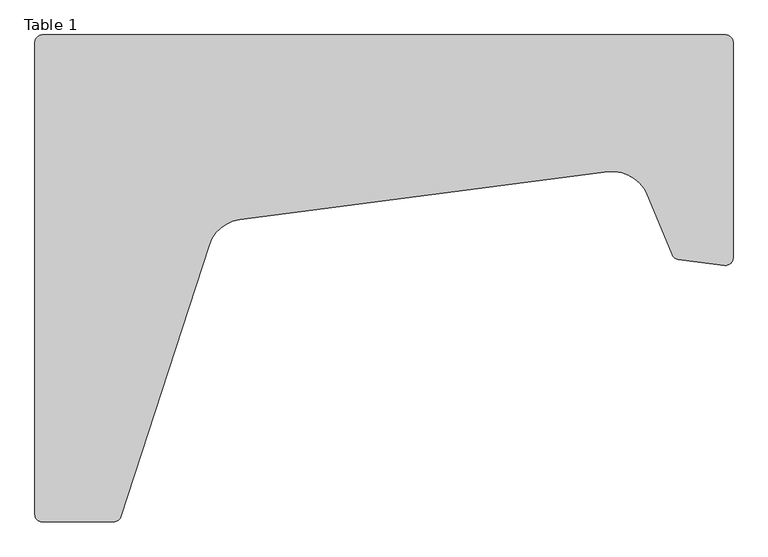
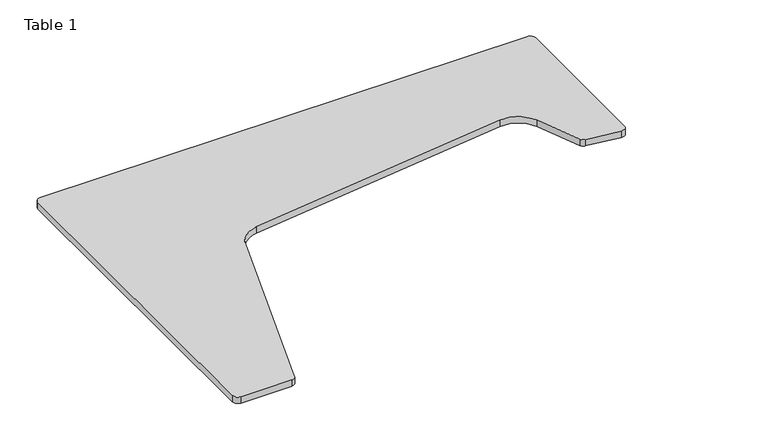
"""IFC4 building model written with IfcOpenShell, lengths in millimetres: furniture geometry, Orangebox_EM_SpaceDivision_Pod_Air3_Furniture_Table_Minipod : Table 1."""

from ifc_helpers import new_model, si_unit, point, frame, frame_2d, origin, place, context, project, spatial, polyline, circle_curve, trimmed, segment, composite_curve, outline, extrude, source, transform, mapped, element, save


def table_1_725a874a(model_context):
    return source(origin(), model_context, "Body", "SweptSolid", [
        extrude(outline(composite_curve([segment(polyline([(20.0, -21.0), (1846.0, -21.0)]), True, "CONTINUOUS"), segment(trimmed(circle_curve(frame_2d((1846.0, -41.0)), 20.0), [point((1846.0, -21.0))], [point((1866.0, -41.0))], False, "CARTESIAN"), True, "CONTINUOUS"), segment(polyline([(1866.0, -41.0), (1866.0, -617.7628162)]), True, "CONTINUOUS"), segment(trimmed(circle_curve(frame_2d((1846.0, -617.7628162)), 20.0), [point((1866.0, -617.7628162))], [point((1843.3894762, -637.5917134))], False, "CARTESIAN"), True, "CONTINUOUS"), segment(polyline([(1843.3894762, -637.5917134), (1719.4916384, -621.2802536)]), True, "CONTINUOUS"), segment(trimmed(circle_curve(frame_2d((1722.1021623, -601.4513564)), 20.0), [point((1719.4916384, -621.2802536))], [point((1703.6245716, -609.105025))], False, "CARTESIAN"), True, "CONTINUOUS"), segment(polyline([(1703.6245716, -609.105025), (1636.9481498, -448.1339031)]), True, "CONTINUOUS"), segment(trimmed(circle_curve(frame_2d((1544.5601965, -486.4022464)), 100.0), [point((1636.9481498, -448.1339031))], [point((1531.6936527, -387.2334405))], True, "CARTESIAN"), True, "CONTINUOUS"), segment(polyline([(1531.6936527, -387.2334405), (547.6094098, -514.9123304)]), True, "CONTINUOUS"), segment(trimmed(circle_curve(frame_2d((560.4759536, -614.0811363)), 100.0), [point((547.6094098, -514.9123304))], [point((465.370302, -583.1794368))], True, "CARTESIAN"), True, "CONTINUOUS"), segment(polyline([(465.370302, -583.1794368), (229.1533894, -1310.1803399)]), True, "CONTINUOUS"), segment(trimmed(circle_curve(frame_2d((210.132259, -1304.0)), 20.0), [point((229.1533894, -1310.1803399))], [point((210.132259, -1324.0))], False, "CARTESIAN"), True, "CONTINUOUS"), segment(polyline([(210.132259, -1324.0), (20.0, -1324.0)]), True, "CONTINUOUS"), segment(trimmed(circle_curve(frame_2d((20.0, -1304.0)), 20.0), [point((20.0, -1324.0))], [point((0.0, -1304.0))], False, "CARTESIAN"), True, "CONTINUOUS"), segment(polyline([(0.0, -1304.0), (0.0, -41.0)]), True, "CONTINUOUS"), segment(trimmed(circle_curve(frame_2d((20.0, -41.0)), 20.0), [point((0.0, -41.0))], [point((20.0, -21.0))], False, "CARTESIAN"), True, "CONTINUOUS")], self_intersect=False)), frame((0.0, 0.0, 705.0), z_axis=(0.0, 0.0, 1.0), x_axis=(1.0, 0.0, 0.0)), (0.0, 0.0, 1.0), 25.0),
    ])


if __name__ == "__main__":
    model = new_model("IFC4")
    model_context = context("Model", 3, world=origin())
    ifc_project = project(units=[si_unit("LENGTHUNIT", "METRE", prefix="MILLI")], contexts=[model_context])
    site = spatial("IfcSite", under=ifc_project)
    building = spatial("IfcBuilding", under=site)
    placement = place(None, origin())
    table_1_shape = table_1_725a874a(model_context)
    element("IfcFurniture", 1, ObjectType="Orangebox_EM_SpaceDivision_Pod_Air3_Furniture_Table_Minipod : Table 1", at=placement, inside=building, context=model_context, shape_type="MappedRepresentation", body=[
        mapped(table_1_shape, transform((0.0, 0.0, 0.0), x_axis=(1.0, 0.0, 0.0), y_axis=(0.0, 1.0, 0.0), z_axis=(0.0, 0.0, 1.0))),
    ])
    save(model, "model.ifc")
